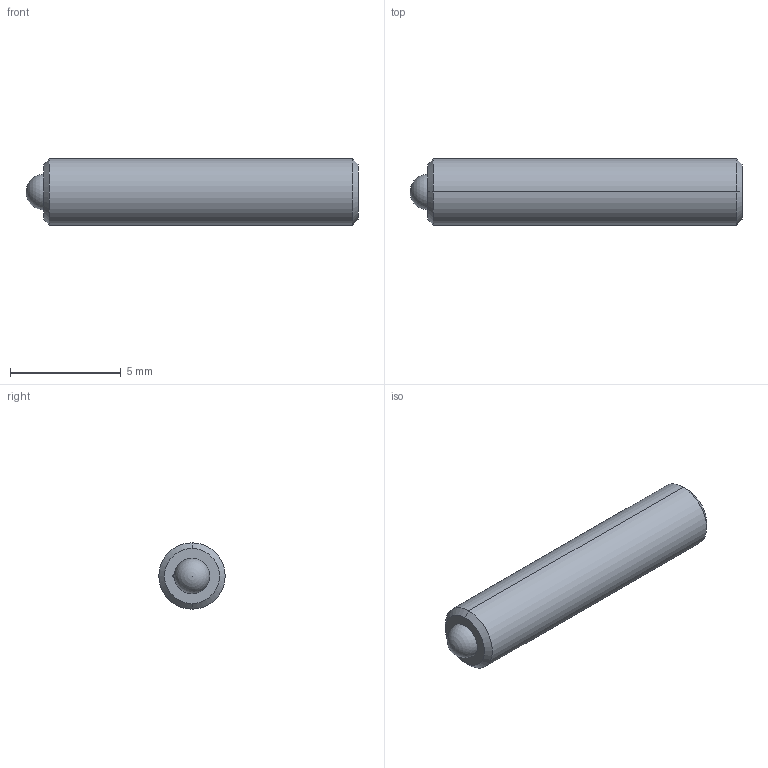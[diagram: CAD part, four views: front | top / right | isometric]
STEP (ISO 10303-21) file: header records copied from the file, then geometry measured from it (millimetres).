
FILE_DESCRIPTION (( 'STEP AP214' ), '1' );
FILE_NAME ('TS3-20-15-HV.STEP', '2013-05-10T16:14:55', ( 'workpc' ), ( 'Microsoft' ), 'SwSTEP 2.0', 'SolidWorks 2013', '' );
FILE_SCHEMA (( 'AUTOMOTIVE_DESIGN' ));
Length unit declared in the file: millimetre
Products named in the file (1): TS3-20-15-HV
Bounding box: 15 x 3 x 3 mm (x, y, z)
Volume: 96.4 mm3; surface area: 167.5 mm2
Topology: 2 solids, 2 shells, 24 faces, 57 edges, 37 vertices
Faces by surface type: plane 10, cylinder 8, cone 4, sphere 2
Entity records: 727 total; most frequent: DIRECTION 124, CARTESIAN_POINT 111, ORIENTED_EDGE 104, EDGE_CURVE 52, AXIS2_PLACEMENT_3D 47, VERTEX_POINT 34, VECTOR 30, LINE 30
